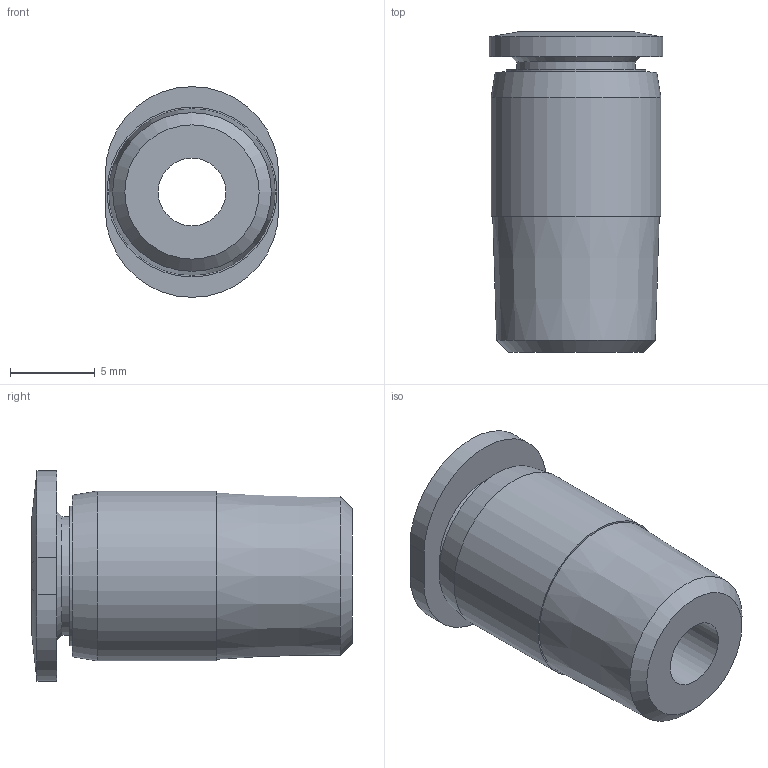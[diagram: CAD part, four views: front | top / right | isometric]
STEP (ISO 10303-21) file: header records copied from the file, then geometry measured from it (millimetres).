
FILE_DESCRIPTION((''),'2;1');
FILE_NAME('D:\INVENTOR\[New Inventor]\CDC Products 3D Ass''y\Compact One-Touch Fittings\Metric\POC-C\POC06-01C.stp','2010-10-01T09:09:31',('Microsoft'),(''),'Autodesk Inventor 2008','Autodesk Inventor 2008','');
FILE_SCHEMA(('AUTOMOTIVE_DESIGN { 1 0 10303 214 1 1 1 1 }'));
Length unit declared in the file: millimetre
Products named in the file (1): POC06-01C
Bounding box: 10.2 x 18.88 x 12.4 mm (x, y, z)
Volume: 947 mm3; surface area: 1125.6 mm2
Topology: 1 solids, 1 shells, 25 faces, 46 edges, 28 vertices
Faces by surface type: plane 9, cylinder 7, bspline 4, cone 4, torus 1
Full cylindrical faces by diameter (mm): 4 x1, 6.2 x1, 7 x1, 8.2 x1, 10 x1
Entity records: 796 total; most frequent: CARTESIAN_POINT 306, DIRECTION 100, ORIENTED_EDGE 72, AXIS2_PLACEMENT_3D 46, EDGE_LOOP 42, EDGE_CURVE 36, VERTEX_POINT 28, FACE_OUTER_BOUND 25
